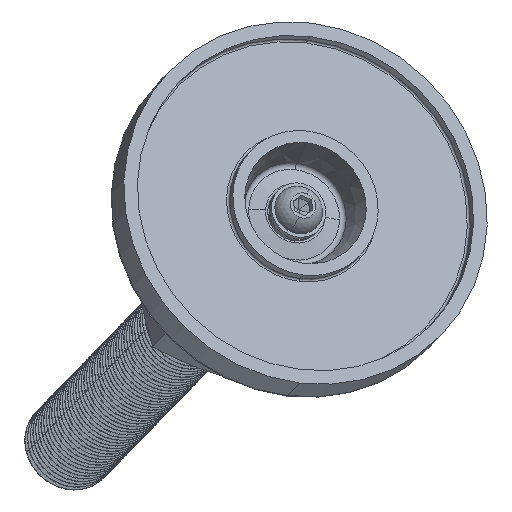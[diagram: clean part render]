
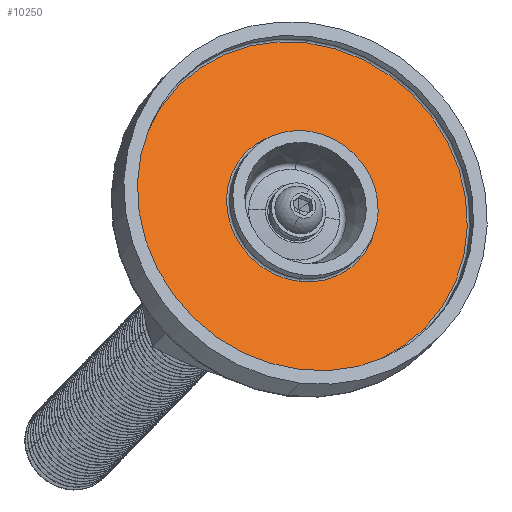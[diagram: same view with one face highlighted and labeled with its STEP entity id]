
A CAD part, front view. The second image highlights one B-rep face of the part: STEP entity #10250.
In plain terms, the highlighted planar face has unit normal (0.282, -0.915, 0.29) as drawn and (0, -1, 0) by its records, which use the part's own axes.
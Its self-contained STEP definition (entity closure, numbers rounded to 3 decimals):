
#187 = EDGE_CURVE ( 'NONE', #11193, #11118, #14891, .T. ) ;
#240 = EDGE_CURVE ( 'NONE', #11120, #11137, #14955, .T. ) ;
#244 = EDGE_CURVE ( 'NONE', #11137, #11120, #14961, .T. ) ;
#260 = EDGE_CURVE ( 'NONE', #11118, #11193, #14977, .T. ) ;
#1543 = CARTESIAN_POINT ( 'NONE',  ( 566.436, 380.917, 0. ) ) ;
#1544 = DIRECTION ( 'NONE',  ( 0., 1., 0. ) ) ;
#1545 = DIRECTION ( 'NONE',  ( 0., 0., 1. ) ) ;
#3946 = CARTESIAN_POINT ( 'NONE',  ( 566.436, 380.917, 0. ) ) ;
#3947 = DIRECTION ( 'NONE',  ( 0., 1., 0. ) ) ;
#3948 = DIRECTION ( 'NONE',  ( 0., 0., 1. ) ) ;
#4570 = CARTESIAN_POINT ( 'NONE',  ( 529.936, 380.917, 0. ) ) ;
#4573 = PLANE ( 'NONE',  #11602 ) ;
#4575 = DIRECTION ( 'NONE',  ( 0., -1., 0. ) ) ;
#4576 = DIRECTION ( 'NONE',  ( 0., 0., -1. ) ) ;
#4590 = CARTESIAN_POINT ( 'NONE',  ( 566.436, 380.917, 36.5 ) ) ;
#4592 = CARTESIAN_POINT ( 'NONE',  ( 566.436, 380.917, -16.5 ) ) ;
#4609 = CARTESIAN_POINT ( 'NONE',  ( 566.436, 380.917, 16.5 ) ) ;
#4665 = CARTESIAN_POINT ( 'NONE',  ( 566.436, 380.917, -36.5 ) ) ;
#5384 = FACE_OUTER_BOUND ( 'NONE', #12902, .T. ) ;
#5391 = FACE_BOUND ( 'NONE', #12900, .T. ) ;
#10250 = ADVANCED_FACE ( 'NONE', ( #5391, #5384 ), #4573, .T. ) ;
#11118 = VERTEX_POINT ( 'NONE', #4590 ) ;
#11120 = VERTEX_POINT ( 'NONE', #4592 ) ;
#11137 = VERTEX_POINT ( 'NONE', #4609 ) ;
#11193 = VERTEX_POINT ( 'NONE', #4665 ) ;
#11417 = CARTESIAN_POINT ( 'NONE',  ( 566.436, 380.917, 0. ) ) ;
#11418 = DIRECTION ( 'NONE',  ( 0., 1., 0. ) ) ;
#11419 = DIRECTION ( 'NONE',  ( 0., 0., 1. ) ) ;
#11429 = CARTESIAN_POINT ( 'NONE',  ( 566.436, 380.917, 0. ) ) ;
#11430 = DIRECTION ( 'NONE',  ( 0., 1., 0. ) ) ;
#11431 = DIRECTION ( 'NONE',  ( 0., 0., 1. ) ) ;
#11602 = AXIS2_PLACEMENT_3D ( 'NONE', #4570, #4575, #4576 ) ;
#12900 = EDGE_LOOP ( 'NONE', ( #14677, #14678 ) ) ;
#12902 = EDGE_LOOP ( 'NONE', ( #14679, #14680 ) ) ;
#14677 = ORIENTED_EDGE ( 'NONE', *, *, #244, .T. ) ;
#14678 = ORIENTED_EDGE ( 'NONE', *, *, #240, .T. ) ;
#14679 = ORIENTED_EDGE ( 'NONE', *, *, #260, .F. ) ;
#14680 = ORIENTED_EDGE ( 'NONE', *, *, #187, .F. ) ;
#14891 = CIRCLE ( 'NONE', #17548, 36.5 ) ;
#14955 = CIRCLE ( 'NONE', #17589, 16.5 ) ;
#14961 = CIRCLE ( 'NONE', #17593, 16.5 ) ;
#14977 = CIRCLE ( 'NONE', #17609, 36.5 ) ;
#17548 = AXIS2_PLACEMENT_3D ( 'NONE', #3946, #3947, #3948 ) ;
#17589 = AXIS2_PLACEMENT_3D ( 'NONE', #11417, #11418, #11419 ) ;
#17593 = AXIS2_PLACEMENT_3D ( 'NONE', #11429, #11430, #11431 ) ;
#17609 = AXIS2_PLACEMENT_3D ( 'NONE', #1543, #1544, #1545 ) ;
